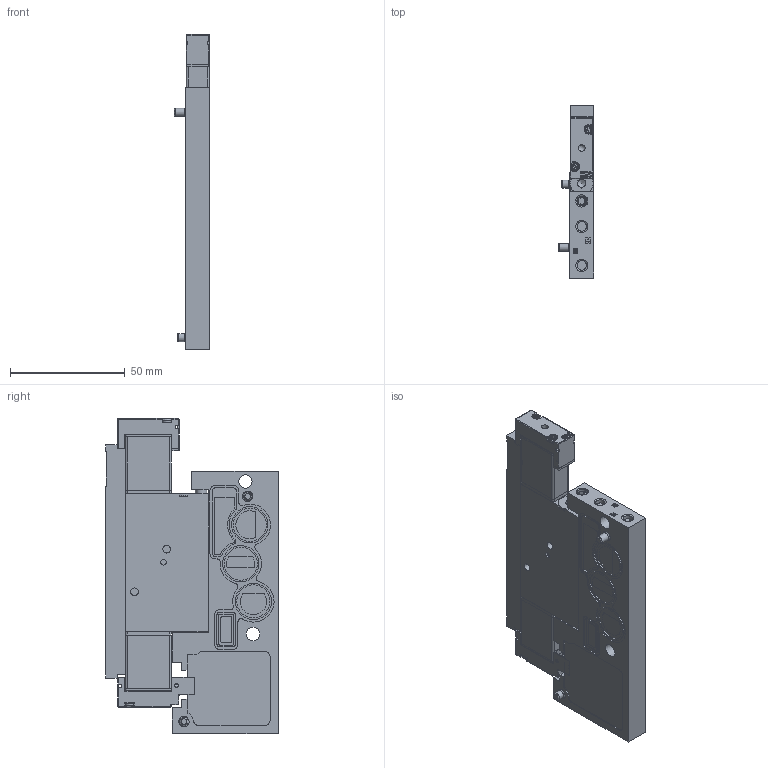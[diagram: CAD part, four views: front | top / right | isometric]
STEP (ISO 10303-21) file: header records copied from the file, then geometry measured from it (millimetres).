
FILE_DESCRIPTION (( 'STEP AP214' ), '1' );
FILE_NAME ('42 DBL CENT.STEP', '2019-09-16T18:08:35', ( 'user' ), ( '' ), 'SwSTEP 2.0', 'SolidWorks 2014', '' );
FILE_SCHEMA (( 'AUTOMOTIVE_DESIGN' ));
Length unit declared in the file: millimetre
Products named in the file (3): 42A-BME-000-GXXP-1FB(SC); 42A-000-BJ1(SC); 42 DBL CENT
Assembly tree (2 placements, depth 2):
  42 DBL CENT
    42A-000-BJ1(SC)
    42A-BME-000-GXXP-1FB(SC)
Bounding box: 15.5 x 75 x 137 mm (x, y, z)
Volume: 74556.6 mm3; surface area: 45396.2 mm2
Topology: 27 solids, 28 shells, 1631 faces, 4098 edges, 2562 vertices
Faces by surface type: plane 859, cylinder 558, bspline 161, cone 53
Full cylindrical faces by diameter (mm): 0.75 x2, 0.95 x4, 1 x4, 1.43 x2, 1.5 x8, 1.52 x2, 1.65 x4, 1.7 x8, 1.73 x2, 1.83 x8, 2 x4, 2.1 x4, 2.18 x4, 2.38 x5, 2.4 x3, 2.6 x1, 2.7 x2, 2.95 x2, 3 x1, 3.064 x1, 3.3 x2, 3.5 x2, 3.57 x1, 3.8 x6, 3.97 x1, 3.99 x2, 4 x6, 4.1 x4, 4.15 x2, 4.31 x1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
Entity records: 69434 total; most frequent: CARTESIAN_POINT 13282, DIRECTION 7797, ORIENTED_EDGE 7634, EDGE_CURVE 3817, AXIS2_PLACEMENT_3D 2648, VERTEX_POINT 2528, VECTOR 2501, LINE 2501
